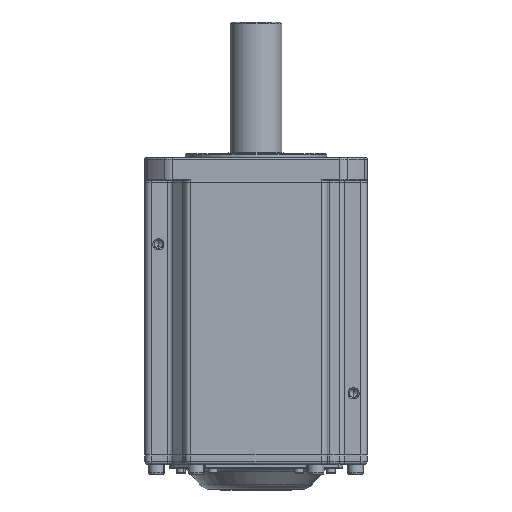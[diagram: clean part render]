
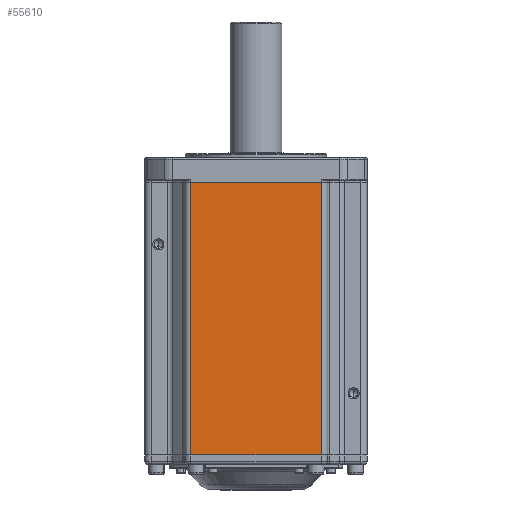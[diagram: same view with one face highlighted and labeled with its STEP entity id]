
A CAD part, front view. The second image highlights one B-rep face of the part: STEP entity #55610.
In plain terms, the highlighted planar face has unit normal (0, -1, 0).
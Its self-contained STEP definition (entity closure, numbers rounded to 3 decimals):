
#2315 = DIRECTION ( 'NONE',  ( 1., 0., 0. ) ) ;
#3529 = PLANE ( 'NONE',  #5037 ) ;
#5037 = AXIS2_PLACEMENT_3D ( 'NONE', #42924, #37294, #13463 ) ;
#5177 = FACE_OUTER_BOUND ( 'NONE', #58567, .T. ) ;
#7058 = LINE ( 'NONE', #27631, #57855 ) ;
#9258 = ORIENTED_EDGE ( 'NONE', *, *, #47311, .T. ) ;
#12155 = DIRECTION ( 'NONE',  ( 0., 0., -1. ) ) ;
#13157 = VECTOR ( 'NONE', #27672, 1000. ) ;
#13463 = DIRECTION ( 'NONE',  ( 0., 0., -1. ) ) ;
#13672 = VERTEX_POINT ( 'NONE', #38532 ) ;
#16709 = LINE ( 'NONE', #41584, #55966 ) ;
#18361 = VERTEX_POINT ( 'NONE', #38195 ) ;
#18992 = ORIENTED_EDGE ( 'NONE', *, *, #23903, .T. ) ;
#21817 = LINE ( 'NONE', #37174, #52692 ) ;
#23903 = EDGE_CURVE ( 'NONE', #13672, #58604, #16709, .T. ) ;
#27631 = CARTESIAN_POINT ( 'NONE',  ( 53.026, -89.007, -896.673 ) ) ;
#27672 = DIRECTION ( 'NONE',  ( -1., 0., 0. ) ) ;
#29242 = LINE ( 'NONE', #47276, #13157 ) ;
#33378 = ORIENTED_EDGE ( 'NONE', *, *, #52988, .T. ) ;
#35167 = EDGE_CURVE ( 'NONE', #58604, #62438, #21817, .T. ) ;
#37174 = CARTESIAN_POINT ( 'NONE',  ( -154.318, -89.007, -117.273 ) ) ;
#37294 = DIRECTION ( 'NONE',  ( 0., 1., 0. ) ) ;
#38195 = CARTESIAN_POINT ( 'NONE',  ( 53.026, -89.007, 103.327 ) ) ;
#38532 = CARTESIAN_POINT ( 'NONE',  ( -52.974, -89.007, 103.327 ) ) ;
#38794 = DIRECTION ( 'NONE',  ( 0., 0., 1. ) ) ;
#41584 = CARTESIAN_POINT ( 'NONE',  ( -52.974, -89.007, -896.673 ) ) ;
#42182 = CARTESIAN_POINT ( 'NONE',  ( -52.974, -89.007, -117.273 ) ) ;
#42924 = CARTESIAN_POINT ( 'NONE',  ( 58.026, -89.007, -896.673 ) ) ;
#43665 = ORIENTED_EDGE ( 'NONE', *, *, #35167, .T. ) ;
#47276 = CARTESIAN_POINT ( 'NONE',  ( 58.026, -89.007, 103.327 ) ) ;
#47311 = EDGE_CURVE ( 'NONE', #62438, #18361, #7058, .T. ) ;
#48698 = CARTESIAN_POINT ( 'NONE',  ( 53.026, -89.007, -117.273 ) ) ;
#52692 = VECTOR ( 'NONE', #2315, 1000. ) ;
#52988 = EDGE_CURVE ( 'NONE', #18361, #13672, #29242, .T. ) ;
#55610 = ADVANCED_FACE ( 'NONE', ( #5177 ), #3529, .F. ) ;
#55966 = VECTOR ( 'NONE', #12155, 1000. ) ;
#57855 = VECTOR ( 'NONE', #38794, 1000. ) ;
#58567 = EDGE_LOOP ( 'NONE', ( #18992, #43665, #9258, #33378 ) ) ;
#58604 = VERTEX_POINT ( 'NONE', #42182 ) ;
#62438 = VERTEX_POINT ( 'NONE', #48698 ) ;
